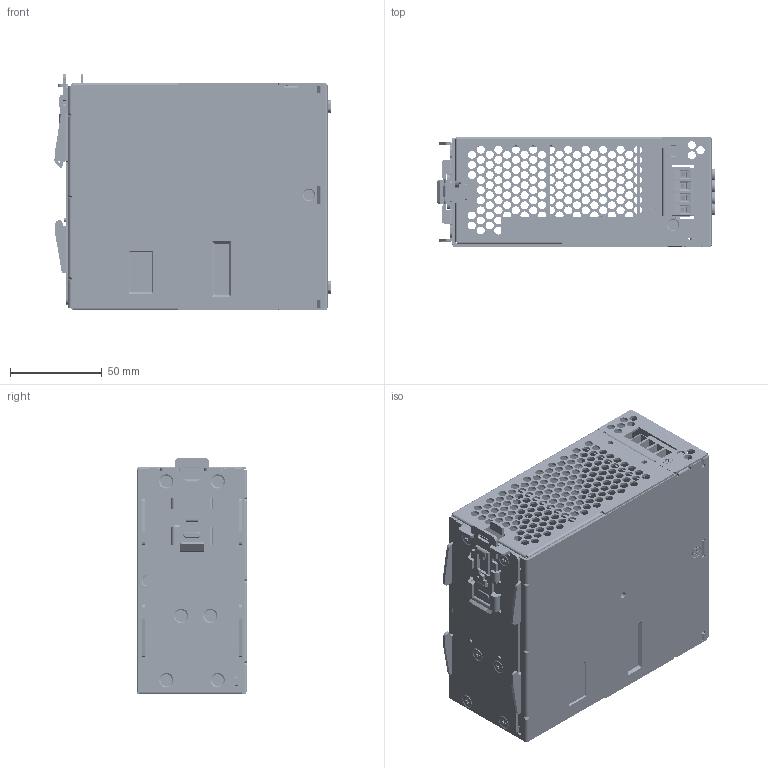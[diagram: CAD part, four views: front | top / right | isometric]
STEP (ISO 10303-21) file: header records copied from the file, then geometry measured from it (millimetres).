
FILE_DESCRIPTION((''),'2;1');
FILE_NAME('DRL-24V480W3EN_SW0001','2026-02-13T09:11:47',('BRYAN.HUANG'),(''),'CREO PARAMETRIC BY PTC INC, 2024014','CREO PARAMETRIC BY PTC INC, 2024014','');
FILE_SCHEMA(('AUTOMOTIVE_DESIGN { 1 0 10303 214 1 1 1 1 }'));
Products named in the file (1): DRL-24V480W3EN_SW0001
Bounding box: 150.95 x 60 x 128.77 mm (x, y, z)
Volume: 153689.5 mm3; surface area: 220979.9 mm2
Topology: 1 solids, 3 shells, 7343 faces, 20867 edges, 13398 vertices
Faces by surface type: plane 4257, cylinder 2570, cone 138, bspline 125, torus 109, extrusion 94, sphere 50
Entity records: 383075 total; most frequent: CARTESIAN_POINT 101603, ORIENTED_EDGE 41586, DIRECTION 38930, EDGE_CURVE 20793, FILL_AREA_STYLE_COLOUR 14406, FILL_AREA_STYLE 14406, SURFACE_STYLE_FILL_AREA 14406, SURFACE_SIDE_STYLE 14406
